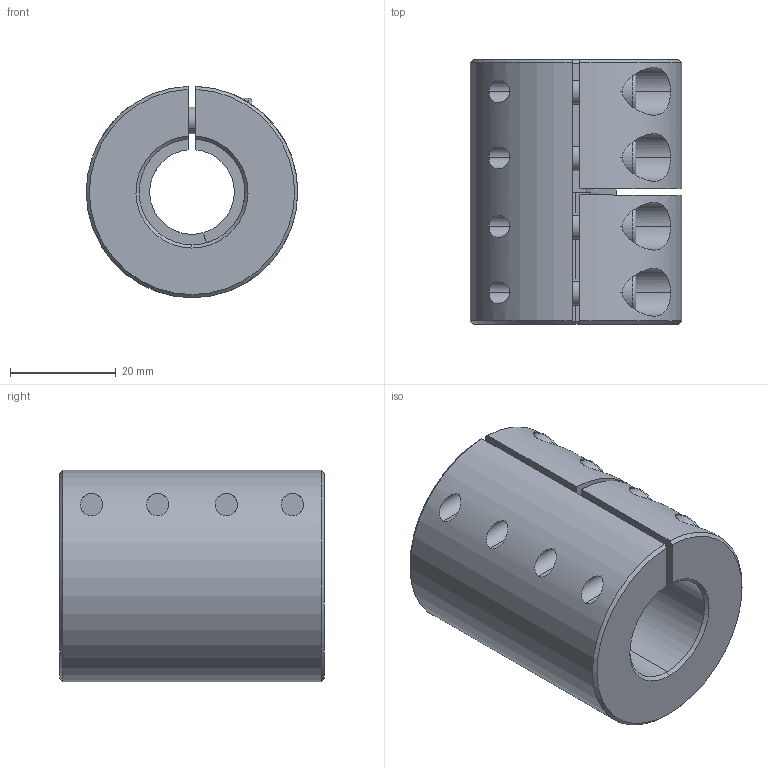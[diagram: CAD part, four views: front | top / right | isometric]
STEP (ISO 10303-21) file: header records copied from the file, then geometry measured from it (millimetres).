
FILE_DESCRIPTION (( 'STEP AP214' ), '1' );
FILE_NAME ('LL-B-D40L50-16-20½¨Ä£.STEP', '2022-07-22T00:26:54', ( '' ), ( '' ), 'SwSTEP 2.0', 'SolidWorks 2022', '' );
FILE_SCHEMA (( 'AUTOMOTIVE_DESIGN' ));
Length unit declared in the file: millimetre
Products named in the file (1): LL-B-D40L50-16-20膘耀
Bounding box: 40 x 50 x 39.99 mm (x, y, z)
Volume: 47118.3 mm3; surface area: 15412.5 mm2
Topology: 1 solids, 1 shells, 176 faces, 444 edges, 278 vertices
Faces by surface type: plane 84, cylinder 70, cone 14, torus 8
Entity records: 5801 total; most frequent: CARTESIAN_POINT 1475, DIRECTION 941, ORIENTED_EDGE 872, EDGE_CURVE 436, AXIS2_PLACEMENT_3D 368, VERTEX_POINT 278, EDGE_LOOP 208, VECTOR 205
